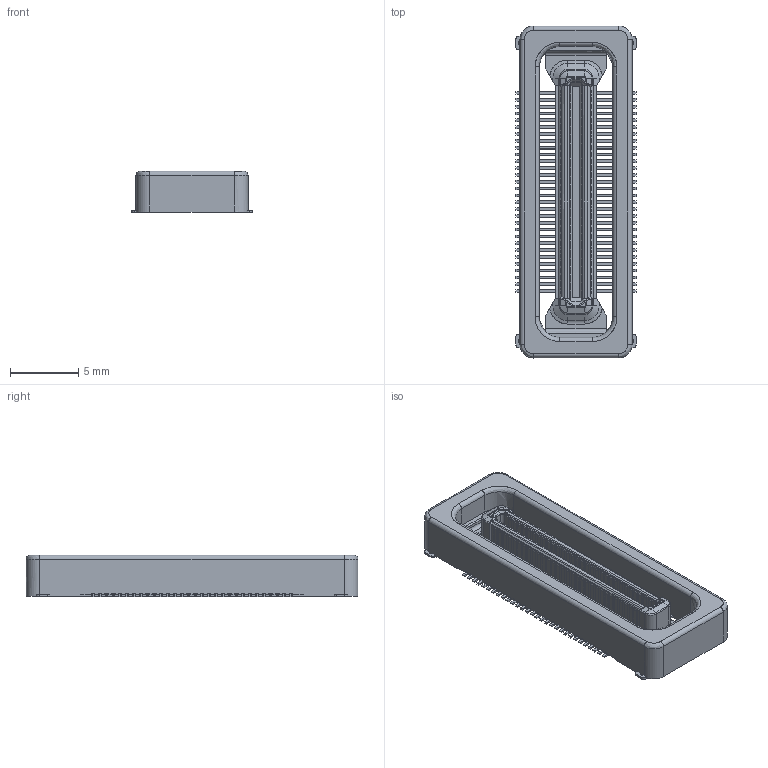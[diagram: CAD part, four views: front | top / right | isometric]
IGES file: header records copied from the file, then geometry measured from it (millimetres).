
Start section: SolidWorks IGES file using analytic representation for surfaces
Global section: file name: Q:\Kamikawa_Hisako\190710\MK_X4_5655_XXX_XXX_829+T\14_5655_XX0_00X_829+T\14_5655_XX0_000_829+T\14_5655_060_000_829+T.IGS; native system: SolidWorks 2017; preprocessor: SolidWorks 2017; author: HISAKO.KAMIKAWA.FJ; date: 190711.102719; units: millimetre
Bounding box: 8.8 x 24.3 x 3.05 mm (x, y, z)
Surface area: 901.9 mm2 (no closed solid volume)
Topology: 0 solids, 0 shells, 2407 faces, 14811 edges, 14811 vertices
Faces by surface type: bspline 1751, revolution 656
